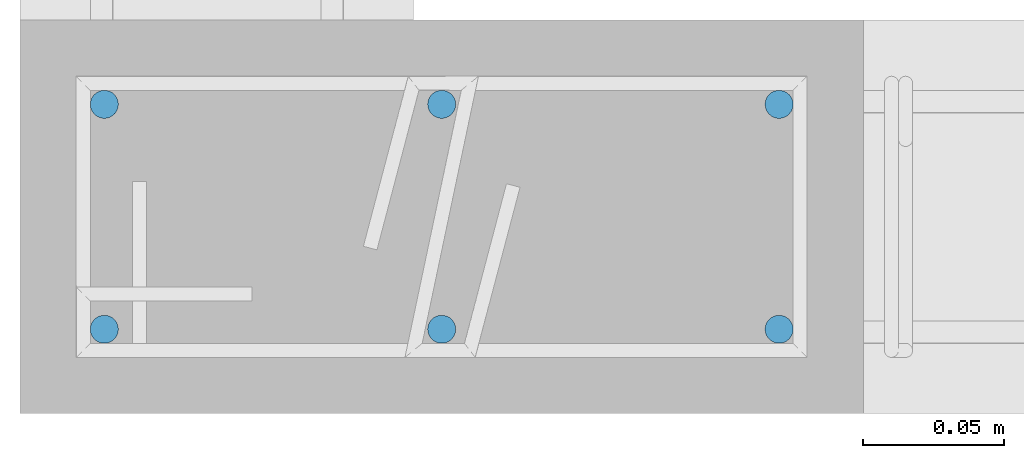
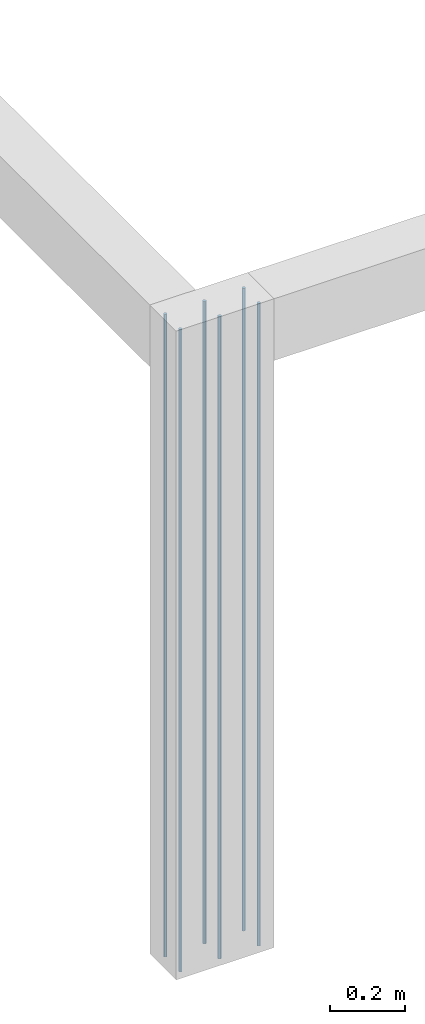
# One storey, part 7 of 236: 6 reinforcing bars.
"""IFC4 building model written with IfcOpenShell, lengths in centimetres."""

import ifcopenshell
import ifcopenshell.guid

model = None  # the IFC model being written
_history = None  # IfcOwnerHistory: only IFC2X3 demands one
_inside = {}  # id of a spatial element -> (the spatial element, [elements in it])
_under = {}  # id of a project, library or spatial element -> (it, [spatial elements below it])
_declared = {}  # id of a project -> (the project, [libraries it declares])
_typed = {}  # id of a type object -> (the type object, [elements of that type])
_made_of = {}  # id of a material, layer set ... -> (it, [elements and type objects made of it])


def new_model(schema):
    """Start an empty IFC model of exactly this schema.

    Asked for "IFC4X3", IfcOpenShell would pick the latest addendum, in which some entities
    have other attributes; the version numbers below select the first issue.
    IFC2X3 requires an IfcOwnerHistory on every rooted entity: one is made here for all.
    """
    global model, _history
    if schema == "IFC4X3":
        model = ifcopenshell.file(schema_version=(4, 3, 0, 0))
    else:
        model = ifcopenshell.file(schema=schema)
    _inside.clear()
    _under.clear()
    _declared.clear()
    _typed.clear()
    _made_of.clear()
    _history = None
    if model.schema == "IFC2X3":
        org = make("IfcOrganization", Name="unknown")
        user = make(
            "IfcPersonAndOrganization",
            ThePerson=make("IfcPerson", FamilyName="unknown"),
            TheOrganization=org,
        )
        app = make(
            "IfcApplication",
            ApplicationDeveloper=org,
            Version="unknown",
            ApplicationFullName="unknown",
            ApplicationIdentifier="unknown",
        )
        _history = make(
            "IfcOwnerHistory",
            OwningUser=user,
            OwningApplication=app,
            ChangeAction="ADDED",
            CreationDate=0,
        )
    return model


def make(cls, **values):
    """One entity of the class cls with the attributes given. An attribute that is None is left unset."""
    return model.create_entity(
        cls, **{name: value for name, value in values.items() if value is not None}
    )


def entity(cls, *values):
    """Any entity or typed value of the class cls, its attributes in the order of the schema. None: left unset."""
    e = model.create_entity(cls)
    for i, value in enumerate(values):
        if value is not None:
            e[i] = value
    return e


def rooted(cls, **values):
    """An entity with a GlobalId (a new one), such as an element, a storey or a relation."""
    return make(cls, GlobalId=ifcopenshell.guid.new(), OwnerHistory=_history, **values)


def si_unit(unit_type, name, prefix=None):
    """IfcSIUnit, for example si_unit("LENGTHUNIT", "METRE", prefix="MILLI")."""
    return make("IfcSIUnit", UnitType=unit_type, Prefix=prefix, Name=name)


def derived_unit(unit_type, elements):
    """IfcDerivedUnit: a product of units, each with its exponent."""
    return make(
        "IfcDerivedUnit",
        Elements=[
            make("IfcDerivedUnitElement", Unit=unit, Exponent=power)
            for unit, power in elements
        ],
        UnitType=unit_type,
    )


def assignment(units):
    """IfcUnitAssignment: the units of a project."""
    return None if units is None else make("IfcUnitAssignment", Units=units)


def point(xyz):
    """IfcCartesianPoint."""
    return None if xyz is None else make("IfcCartesianPoint", Coordinates=xyz)


def direction(xyz):
    """IfcDirection."""
    return None if xyz is None else make("IfcDirection", DirectionRatios=xyz)


def frame(location, z_axis=None, x_axis=None):
    """IfcAxis2Placement3D, a coordinate frame: its origin and axes. An axis left out is left unset."""
    return make(
        "IfcAxis2Placement3D",
        Location=point(location),
        Axis=direction(z_axis),
        RefDirection=direction(x_axis),
    )


def origin_with_axes():
    """The frame at (0, 0, 0) with the z axis (0, 0, 1) and the x axis (1, 0, 0) written out."""
    return frame((0.0, 0.0, 0.0), z_axis=(0.0, 0.0, 1.0), x_axis=(1.0, 0.0, 0.0))


def place(relative_to, where):
    """IfcLocalPlacement: puts the frame where relative to a parent placement (None: the world)."""
    return make(
        "IfcLocalPlacement", PlacementRelTo=relative_to, RelativePlacement=where
    )


def context(
    kind, dimensions, precision=None, world=None, true_north=None, identifier=None
):
    """IfcGeometricRepresentationContext, for example the 3D "Model" context."""
    return make(
        "IfcGeometricRepresentationContext",
        ContextIdentifier=identifier,
        ContextType=kind,
        CoordinateSpaceDimension=dimensions,
        Precision=precision,
        WorldCoordinateSystem=world,
        TrueNorth=true_north,
    )


def project(units=None, contexts=None):
    """IfcProject with its units and contexts."""
    return rooted(
        "IfcProject",
        Name="project",
        RepresentationContexts=contexts,
        UnitsInContext=assignment(units),
    )


def spatial(cls, under=None, at=None, **own):
    """A site, building, storey or space (cls), placed at a placement, below another one or the project."""
    s = rooted(cls, ObjectPlacement=at, **own)
    if under is not None:
        _under.setdefault(under.id(), (under, []))[1].append(s)
    return s


def shape(context_of_items, identifier, shape_type, items):
    """IfcShapeRepresentation: the items that make up one representation, for example the "Body"."""
    return make(
        "IfcShapeRepresentation",
        ContextOfItems=context_of_items,
        RepresentationIdentifier=identifier,
        RepresentationType=shape_type,
        Items=items,
    )


def made_of(thing, what):
    """Note that an element or type object is made of a material, layer set ...; save() writes the relation."""
    if what is not None:
        _made_of.setdefault(what.id(), (what, []))[1].append(thing)
    return thing


def element(
    cls,
    number,
    at=None,
    inside=None,
    cuts=None,
    type_object=None,
    material=None,
    context=None,
    identifier="Body",
    shape_type=None,
    held_by="IfcProductDefinitionShape",
    body=None,
    shapes=None,
    **own,
):
    """One element of the class cls, such as IfcWall. Its Tag is "e" and its number.

    at: its placement. inside: the storey or other place that contains it. cuts: it is an
    opening in that element (IfcRelVoidsElement). A single representation is given by context,
    identifier, shape_type and body (its items); several are given by shapes. held_by: the class
    of the entity that holds the representations. save() writes the other relations.
    """
    e = rooted(cls, Tag="e%d" % number, ObjectPlacement=at, **own)
    if body is not None:
        shapes = [shape(context, identifier, shape_type, body)]
    if shapes is not None:
        e.Representation = make(held_by, Representations=shapes)
    if inside is not None:
        _inside.setdefault(inside.id(), (inside, []))[1].append(e)
    if cuts is not None:
        rooted(
            "IfcRelVoidsElement", RelatingBuildingElement=cuts, RelatedOpeningElement=e
        )
    if type_object is not None:
        _typed.setdefault(type_object.id(), (type_object, []))[1].append(e)
    return made_of(e, material)


def aggregate(whole, parts):
    """IfcRelAggregates: a whole, such as a stair, and the parts it consists of."""
    return rooted("IfcRelAggregates", RelatingObject=whole, RelatedObjects=parts)


def save(model, path):
    """Write the relations noted so far, then the file.

    IfcRelAggregates (storeys below a building ...), IfcRelContainedInSpatialStructure (elements
    in a storey), IfcRelDefinesByType, IfcRelAssociatesMaterial and IfcRelDeclares: one each for
    every whole, place, type object, material and project.
    """
    for whole, parts in _under.values():
        aggregate(whole, parts)
    for where, things in _inside.values():
        rooted(
            "IfcRelContainedInSpatialStructure",
            RelatedElements=things,
            RelatingStructure=where,
        )
    for kind, things in _typed.values():
        rooted("IfcRelDefinesByType", RelatedObjects=things, RelatingType=kind)
    for what, things in _made_of.values():
        rooted("IfcRelAssociatesMaterial", RelatedObjects=things, RelatingMaterial=what)
    for by, libraries in _declared.values():
        rooted("IfcRelDeclares", RelatingContext=by, RelatedDefinitions=libraries)
    model.write(path)


model = new_model("IFC4")

# Units and contexts
model_context = context("Model", 3, precision=1e-05, world=origin_with_axes(), identifier="Body")
ifc_project = project(units=[si_unit("LENGTHUNIT", "METRE", prefix="CENTI"), si_unit("VOLUMEUNIT", "CUBIC_METRE"), si_unit("AREAUNIT", "SQUARE_METRE"), si_unit("POWERUNIT", "WATT"), si_unit("LUMINOUSFLUXUNIT", "LUMEN"), si_unit("ELECTRICCURRENTUNIT", "AMPERE"), si_unit("PRESSUREUNIT", "PASCAL", prefix="KILO"), si_unit("MASSUNIT", "GRAM", prefix="KILO"), si_unit("PLANEANGLEUNIT", "RADIAN"), derived_unit("VOLUMETRICFLOWRATEUNIT", [(si_unit("LENGTHUNIT", "METRE"), 3), (si_unit("TIMEUNIT", "SECOND"), -1)])], contexts=[model_context])

# Site, building, storey
site_placement = place(None, frame((-4000.0, 0.0, 0.0), z_axis=(0.0, 0.0, 1.0), x_axis=(1.0, 0.0, 0.0)))
site = spatial("IfcSite", under=ifc_project, at=site_placement, Name="PADRÃO")
building_placement = place(site_placement, frame((0.0, 0.0, -14.0)))
building = spatial("IfcBuilding", under=site, at=building_placement, Name="CRECHE PRÉ-ESCOLA TIPO 2")
placement_1 = place(building_placement, origin_with_axes())
placement_2 = place(placement_1, frame((0.0, 0.0, 30.0), z_axis=(0.0, 0.0, 1.0), x_axis=(1.0, 0.0, 0.0)))
storey_placement = place(placement_2, frame((0.0, 0.0, 310.0), z_axis=(0.0, 0.0, 1.0), x_axis=(1.0, 0.0, 0.0)))
storey = spatial("IfcBuildingStorey", under=building, at=storey_placement, Name="TERREO", CompositionType="ELEMENT", Elevation=326.0)

# Reinforcing bars
for number, where, z_axis, x_axis, name in (
    (1, (16.5, 5.0, -102.0), (0.0, 0.0, 1.0), (1.0, 0.0, 0.0), "P155 - Longitudinal"),
    (2, (16.5, 13.0, -102.0), (0.0, 0.0, 1.0), (1.0, 0.0, 0.0), "P155 - Longitudinal"),
    (3, (4.5, 5.0, -102.0), (0.0, 0.0, 1.0), (1.0, 0.0, 0.0), "P155 - Longitudinal"),
    (4, (28.5, 5.0, -102.0), (0.0, 0.0, 1.0), (1.0, 0.0, 0.0), "P155 - Longitudinal"),
    (5, (4.5, 13.0, -102.0), (0.0, 0.0, 1.0), (1.0, 0.0, 0.0), "P155 - Longitudinal"),
    (6, (28.5, 13.0, -102.0), (0.0, 0.0, 1.0), (1.0, 0.0, 0.0), "P155 - Longitudinal"),
):
    element("IfcReinforcingBar", number, at=place(storey_placement, frame(where, z_axis=z_axis, x_axis=x_axis)), inside=storey, Name=name, BarLength=0.0, CrossSectionArea=7.853981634e-05, NominalDiameter=1.0, PredefinedType="MAIN", context=model_context, shape_type="AdvancedSweptSolid", body=[
        entity("IfcSweptDiskSolid", entity("IfcCompositeCurve", [entity("IfcCompositeCurveSegment", "CONTINUOUS", True, entity("IfcPolyline", [entity("IfcCartesianPoint", [0.0, 0.0, -208.0]), entity("IfcCartesianPoint", [0.0, 0.0, 0.0])]))], False), 0.5),
    ])

save(model, "model.ifc")
